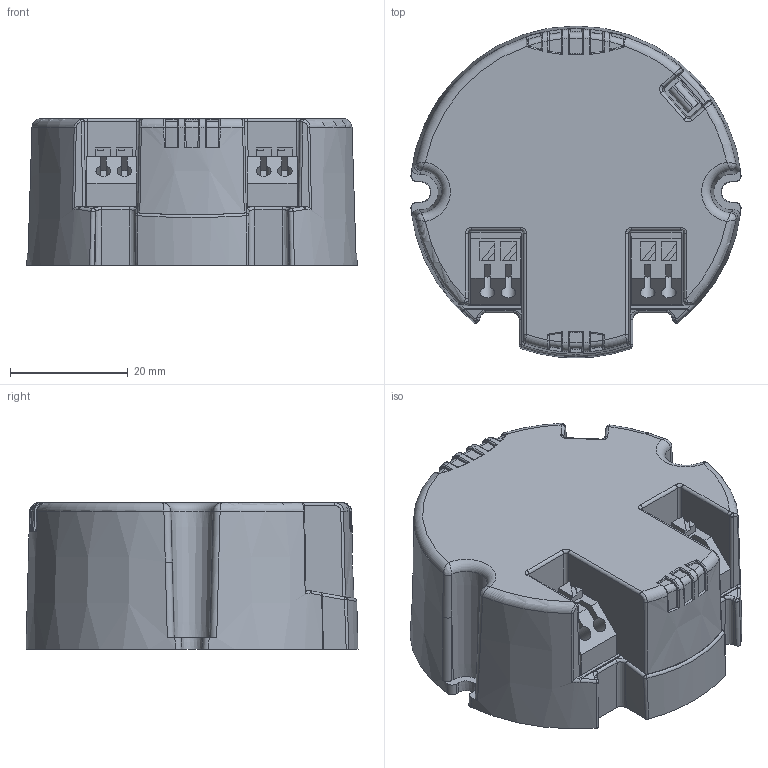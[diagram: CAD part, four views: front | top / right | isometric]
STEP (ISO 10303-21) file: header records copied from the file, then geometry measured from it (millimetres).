
FILE_DESCRIPTION((''),'2;1');
FILE_NAME('15013563Z_DMEC_RND56-5X25_A','2019-10-21T15:00:03',('juergen.hrach'),(''),'CREO PARAMETRIC BY PTC INC, 2019164','CREO PARAMETRIC BY PTC INC, 2019164','');
FILE_SCHEMA(('CONFIG_CONTROL_DESIGN'));
Length unit declared in the file: millimetre
Products named in the file (1): 15013563Z_DMEC_RND56-5X25_A
Bounding box: 56.22 x 56.5 x 25 mm (x, y, z)
Volume: 17576.1 mm3; surface area: 25662.2 mm2
Topology: 1 solids, 1 shells, 681 faces, 2112 edges, 1412 vertices
Faces by surface type: plane 322, cylinder 158, cone 86, bspline 62, torus 45, sphere 6, extrusion 2
Entity records: 33154 total; most frequent: CARTESIAN_POINT 15723, ORIENTED_EDGE 4210, DIRECTION 2973, EDGE_CURVE 2105, VERTEX_POINT 1412, AXIS2_PLACEMENT_3D 1073, VECTOR 827, B_SPLINE_CURVE_WITH_KNOTS 826
